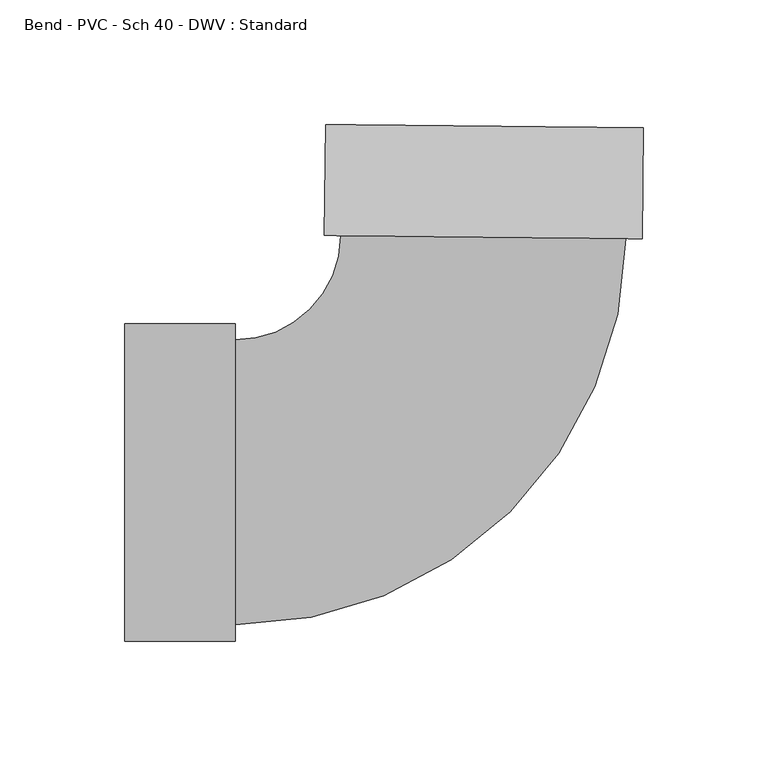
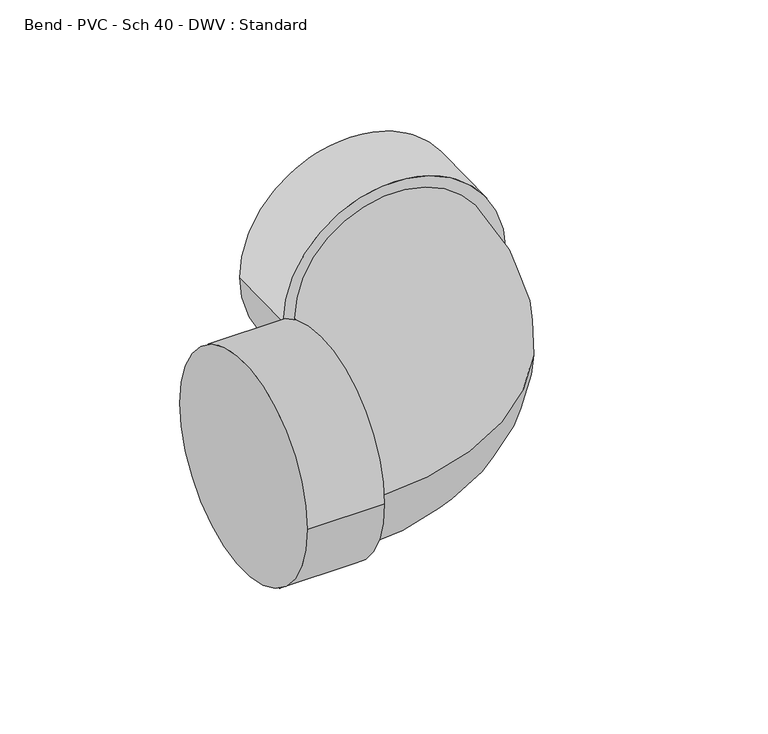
"""IFC4 building model written with IfcOpenShell, lengths in millimetres: pipe fitting geometry, Bend - PVC - Sch 40 - DWV : Standard."""

from ifc_helpers import new_model, si_unit, point, frame, origin, place, context, project, spatial, circle_curve, ellipse_curve, trimmed, source, transform, mapped, element, save
from ifc_brep_helpers import plane_surface, cylinder_surface, revolved_surface, advanced_brep


def bend_pvc_sch_40_dwv_standard_23d7c334(model_context):
    return source(origin(), model_context, "Body", "AdvancedBrep", [
        advanced_brep(
        [(-142.875, -63.754, 0.0), (-142.875, 63.754, 0.0), (-98.425, -63.754, 0.0), (-98.425, 63.754, 0.0), (-98.425, -57.15, 0.0), (-98.425, 57.15, 0.0), (-56.1216949, 99.0149407, 0.0), (58.1721045, 97.8243803, 0.0), (64.7757462, 97.7555924, 0.0), (-62.7253366, 99.0837287, 0.0), (65.2387419, 142.203181, 0.0), (-62.2623409, 143.5313173, 0.0)],
        [
            (0, 1, circle_curve(frame((-142.875, 0.0, 0.0), z_axis=(-1.0, 0.0, 0.0), x_axis=(0.0, 1.0, 0.0)), 63.754)),
            (1, 0, circle_curve(frame((-142.875, 0.0, 0.0), z_axis=(-1.0, 0.0, 0.0), x_axis=(0.0, 1.0, 0.0)), 63.754)),
            (2, 3, circle_curve(frame((-98.425, 0.0, 0.0), z_axis=(1.0, 0.0, 0.0), x_axis=(0.0, 1.0, 0.0)), 63.754)),
            (3, 2, circle_curve(frame((-98.425, 0.0, 0.0), z_axis=(1.0, 0.0, 0.0), x_axis=(0.0, 1.0, 0.0)), 63.754)),
            (4, 5, circle_curve(frame((-98.425, 0.0, 0.0), z_axis=(-1.0, 0.0, 0.0), x_axis=(0.0, 1.0, 0.0)), 57.15)),
            (5, 4, circle_curve(frame((-98.425, 0.0, 0.0), z_axis=(-1.0, 0.0, 0.0), x_axis=(0.0, 1.0, 0.0)), 57.15)),
            (0, 2),
            (3, 1),
            (6, 5, circle_curve(frame((-98.425, 99.4556002, 0.0), z_axis=(0.0, 0.0, -1.0), x_axis=(0.0, -1.0, 0.0)), 42.3056002)),
            (4, 7, circle_curve(frame((-98.425, 99.4556002, 0.0), z_axis=(0.0, 0.0, 1.0), x_axis=(0.0, -1.0, 0.0)), 156.6056002)),
            (7, 6, circle_curve(frame((1.0252048, 98.4196605, 0.0), z_axis=(-0.010416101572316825, -0.9999457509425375, 0.0), x_axis=(-0.9999457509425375, 0.010416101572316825, 0.0)), 57.15)),
            (6, 7, circle_curve(frame((1.0252048, 98.4196605, 0.0), z_axis=(-0.010416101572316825, -0.9999457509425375, 0.0), x_axis=(-0.9999457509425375, 0.010416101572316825, 0.0)), 57.15)),
            (8, 9, circle_curve(frame((1.0252048, 98.4196605, 0.0), z_axis=(-0.010416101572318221, -0.9999457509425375, 0.0), x_axis=(-0.9999457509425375, 0.010416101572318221, 0.0)), 63.754)),
            (9, 8, circle_curve(frame((1.0252048, 98.4196605, 0.0), z_axis=(-0.010416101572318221, -0.9999457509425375, 0.0), x_axis=(-0.9999457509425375, 0.010416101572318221, 0.0)), 63.754)),
            (10, 11, circle_curve(frame((1.4882005, 142.8672492, 0.0), z_axis=(0.010416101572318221, 0.9999457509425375, 0.0), x_axis=(-0.9999457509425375, 0.010416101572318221, 0.0)), 63.754)),
            (11, 10, circle_curve(frame((1.4882005, 142.8672492, 0.0), z_axis=(0.010416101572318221, 0.9999457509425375, 0.0), x_axis=(-0.9999457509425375, 0.010416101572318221, 0.0)), 63.754)),
            (8, 10),
            (11, 9),
        ],
        [
            plane_surface(frame((-142.875, 0.0, 0.0), z_axis=(-1.0, 0.0, 0.0), x_axis=(0.0, 0.0, 1.0))),
            plane_surface(frame((-98.425, 0.0, 0.0), z_axis=(1.0, 0.0, 0.0), x_axis=(0.0, 0.0, 1.0))),
            cylinder_surface(frame((-142.875, 0.0, 0.0), z_axis=(-1.0, 0.0, 0.0), x_axis=(0.0, 1.0, 0.0)), 63.754),
            revolved_surface(trimmed(ellipse_curve(frame((-98.425, 0.0, 0.0), z_axis=(-1.0, 0.0, 0.0), x_axis=(0.0, 1.0, 0.0)), 57.15, 57.15), [point((-98.425, -57.15, 0.0))], [point((-98.425, 57.15, 0.0))], True, "CARTESIAN"), (-98.425, 99.4556002, 0.0), (0.0, 0.0, 1.0)),
            revolved_surface(trimmed(ellipse_curve(frame((-98.425, 0.0, 0.0), z_axis=(-1.0, 0.0, 0.0), x_axis=(0.0, 1.0, 0.0)), 57.15, 57.15), [point((-98.425, 57.15, 0.0))], [point((-98.425, -57.15, 0.0))], True, "CARTESIAN"), (-98.425, 99.4556002, 0.0), (0.0, 0.0, 1.0)),
            plane_surface(frame((1.0252048, 98.4196605, 0.0), z_axis=(-0.010416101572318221, -0.9999457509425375, 0.0), x_axis=(0.0, 0.0, 1.0))),
            plane_surface(frame((1.4882005, 142.8672492, 0.0), z_axis=(0.010416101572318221, 0.9999457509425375, 0.0), x_axis=(0.0, 0.0, 1.0))),
            cylinder_surface(frame((1.0252048, 98.4196605, 0.0), z_axis=(-0.010416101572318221, -0.9999457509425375, 0.0), x_axis=(-0.9999457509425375, 0.010416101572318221, 0.0)), 63.754),
        ],
        [
            (0, [[1, 2]]),
            (1, [[3, 4], [5, 6]]),
            (2, [[-1, 7, -4, 8]]),
            (2, [[-2, -8, -3, -7]]),
            (3, [[9, -5, 10, 11]]),
            (4, [[-9, 12, -10, -6]]),
            (5, [[13, 14], [-11, -12]]),
            (6, [[15, 16]]),
            (7, [[-13, 17, -16, 18]]),
            (7, [[-14, -18, -15, -17]]),
        ],
    ),
    ])


if __name__ == "__main__":
    model = new_model("IFC4")
    model_context = context("Model", 3, world=origin())
    ifc_project = project(units=[si_unit("LENGTHUNIT", "METRE", prefix="MILLI")], contexts=[model_context])
    site = spatial("IfcSite", under=ifc_project)
    building = spatial("IfcBuilding", under=site)
    placement = place(None, origin())
    bend_pvc_sch_40_dwv_standard_shape = bend_pvc_sch_40_dwv_standard_23d7c334(model_context)
    element("IfcPipeFitting", 1, ObjectType="Bend - PVC - Sch 40 - DWV : Standard", at=placement, inside=building, context=model_context, shape_type="MappedRepresentation", body=[
        mapped(bend_pvc_sch_40_dwv_standard_shape, transform((0.0, 0.0, 0.0), x_axis=(1.0, 0.0, 0.0), y_axis=(0.0, 1.0, 0.0), z_axis=(0.0, 0.0, 1.0))),
    ])
    save(model, "model.ifc")
